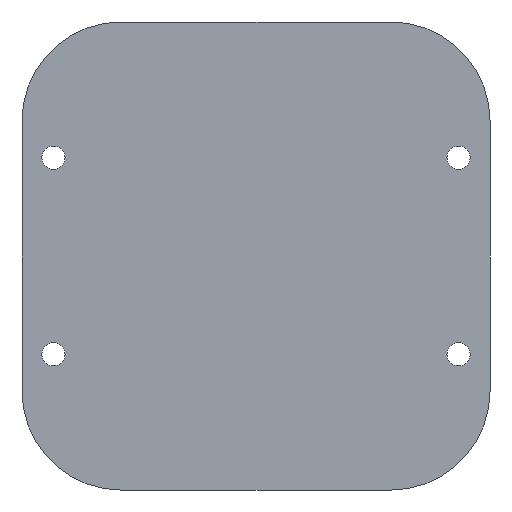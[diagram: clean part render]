
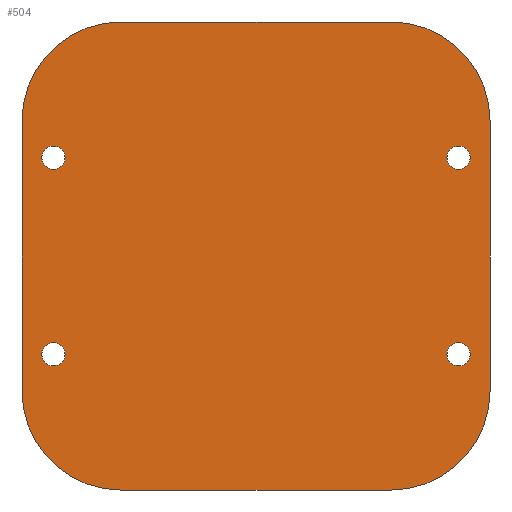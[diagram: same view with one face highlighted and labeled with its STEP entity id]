
A CAD part, front view. The second image highlights one B-rep face of the part: STEP entity #504.
In plain terms, the highlighted planar face has unit normal (0, -1, 0).
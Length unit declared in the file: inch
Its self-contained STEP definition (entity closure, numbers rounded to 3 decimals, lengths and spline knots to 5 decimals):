
#7 = EDGE_CURVE ( 'NONE', #327, #416, #460, .T. ) ;
#13 = DIRECTION ( 'NONE',  ( 0., 0., 1. ) ) ;
#24 = FACE_OUTER_BOUND ( 'NONE', #446, .T. ) ;
#34 = LINE ( 'NONE', #98, #306 ) ;
#39 = EDGE_CURVE ( 'NONE', #419, #177, #603, .T. ) ;
#46 = ORIENTED_EDGE ( 'NONE', *, *, #457, .F. ) ;
#57 = VERTEX_POINT ( 'NONE', #578 ) ;
#62 = ORIENTED_EDGE ( 'NONE', *, *, #485, .T. ) ;
#63 = VECTOR ( 'NONE', #216, 39.37008 ) ;
#70 = VERTEX_POINT ( 'NONE', #454 ) ;
#76 = ORIENTED_EDGE ( 'NONE', *, *, #78, .F. ) ;
#78 = EDGE_CURVE ( 'NONE', #354, #559, #34, .T. ) ;
#79 = DIRECTION ( 'NONE',  ( 0., 0., 1. ) ) ;
#90 = DIRECTION ( 'NONE',  ( 0., 1., 0. ) ) ;
#98 = CARTESIAN_POINT ( 'NONE',  ( 2.137, 0., 0. ) ) ;
#103 = ORIENTED_EDGE ( 'NONE', *, *, #7, .T. ) ;
#109 = DIRECTION ( 'NONE',  ( 0., 1., 0. ) ) ;
#115 = CARTESIAN_POINT ( 'NONE',  ( 2.137, 0., -10.11 ) ) ;
#132 = EDGE_LOOP ( 'NONE', ( #380, #278 ) ) ;
#135 = AXIS2_PLACEMENT_3D ( 'NONE', #393, #90, #443 ) ;
#136 = CARTESIAN_POINT ( 'NONE',  ( 2.137, 0., 0. ) ) ;
#148 = VERTEX_POINT ( 'NONE', #269 ) ;
#149 = VERTEX_POINT ( 'NONE', #602 ) ;
#151 = EDGE_CURVE ( 'NONE', #559, #478, #254, .T. ) ;
#160 = DIRECTION ( 'NONE',  ( 0., 1., 0. ) ) ;
#162 = FACE_BOUND ( 'NONE', #310, .T. ) ;
#165 = DIRECTION ( 'NONE',  ( 0., 1., 0. ) ) ;
#166 = AXIS2_PLACEMENT_3D ( 'NONE', #414, #109, #463 ) ;
#173 = ORIENTED_EDGE ( 'NONE', *, *, #612, .F. ) ;
#174 = DIRECTION ( 'NONE',  ( 0., 0., -1. ) ) ;
#176 = EDGE_CURVE ( 'NONE', #672, #70, #533, .T. ) ;
#177 = VERTEX_POINT ( 'NONE', #374 ) ;
#179 = EDGE_LOOP ( 'NONE', ( #329, #62 ) ) ;
#181 = CIRCLE ( 'NONE', #242, 0.25 ) ;
#187 = DIRECTION ( 'NONE',  ( 0., 1., 0. ) ) ;
#193 = ORIENTED_EDGE ( 'NONE', *, *, #39, .F. ) ;
#204 = CARTESIAN_POINT ( 'NONE',  ( 0., 0., -2.137 ) ) ;
#205 = VERTEX_POINT ( 'NONE', #204 ) ;
#209 = EDGE_CURVE ( 'NONE', #205, #354, #605, .T. ) ;
#210 = CARTESIAN_POINT ( 'NONE',  ( 9.43, 0., -7.43 ) ) ;
#216 = DIRECTION ( 'NONE',  ( -1., 0., 0. ) ) ;
#217 = DIRECTION ( 'NONE',  ( 0., 0., 1. ) ) ;
#223 = DIRECTION ( 'NONE',  ( 0., 1., 0. ) ) ;
#228 = AXIS2_PLACEMENT_3D ( 'NONE', #530, #223, #585 ) ;
#230 = LINE ( 'NONE', #377, #379 ) ;
#238 = CARTESIAN_POINT ( 'NONE',  ( 2.137, 0., -7.973 ) ) ;
#241 = CIRCLE ( 'NONE', #135, 0.25 ) ;
#242 = AXIS2_PLACEMENT_3D ( 'NONE', #473, #165, #525 ) ;
#252 = DIRECTION ( 'NONE',  ( 0., 1., 0. ) ) ;
#254 = CIRCLE ( 'NONE', #228, 2.137 ) ;
#259 = CIRCLE ( 'NONE', #630, 0.25 ) ;
#265 = CARTESIAN_POINT ( 'NONE',  ( 2.137, 0., -7.973 ) ) ;
#269 = CARTESIAN_POINT ( 'NONE',  ( 9.43, 0., -6.93 ) ) ;
#273 = CARTESIAN_POINT ( 'NONE',  ( 9.43, 0., -7.18 ) ) ;
#276 = EDGE_CURVE ( 'NONE', #505, #149, #565, .T. ) ;
#278 = ORIENTED_EDGE ( 'NONE', *, *, #544, .T. ) ;
#279 = EDGE_CURVE ( 'NONE', #149, #205, #289, .T. ) ;
#289 = LINE ( 'NONE', #501, #547 ) ;
#291 = CARTESIAN_POINT ( 'NONE',  ( 0.68, 0., -7.43 ) ) ;
#293 = DIRECTION ( 'NONE',  ( 0., 0., 1. ) ) ;
#296 = DIRECTION ( 'NONE',  ( 0., 1., 0. ) ) ;
#300 = FACE_BOUND ( 'NONE', #179, .T. ) ;
#306 = VECTOR ( 'NONE', #375, 39.37008 ) ;
#310 = EDGE_LOOP ( 'NONE', ( #655, #103 ) ) ;
#315 = VERTEX_POINT ( 'NONE', #613 ) ;
#316 = FACE_BOUND ( 'NONE', #132, .T. ) ;
#317 = PLANE ( 'NONE',  #453 ) ;
#319 = DIRECTION ( 'NONE',  ( 0., 1., 0. ) ) ;
#320 = DIRECTION ( 'NONE',  ( 0., 0., 1. ) ) ;
#327 = VERTEX_POINT ( 'NONE', #291 ) ;
#328 = DIRECTION ( 'NONE',  ( 0., 0., 1. ) ) ;
#329 = ORIENTED_EDGE ( 'NONE', *, *, #532, .T. ) ;
#345 = CARTESIAN_POINT ( 'NONE',  ( 7.973, 0., -7.973 ) ) ;
#354 = VERTEX_POINT ( 'NONE', #136 ) ;
#357 = EDGE_CURVE ( 'NONE', #416, #327, #241, .T. ) ;
#363 = CARTESIAN_POINT ( 'NONE',  ( 0.68, 0., -6.93 ) ) ;
#374 = CARTESIAN_POINT ( 'NONE',  ( 7.973, 0., -10.11 ) ) ;
#375 = DIRECTION ( 'NONE',  ( 1., 0., 0. ) ) ;
#376 = EDGE_CURVE ( 'NONE', #400, #148, #534, .T. ) ;
#377 = CARTESIAN_POINT ( 'NONE',  ( 10.11, 0., -2.137 ) ) ;
#379 = VECTOR ( 'NONE', #174, 39.37008 ) ;
#380 = ORIENTED_EDGE ( 'NONE', *, *, #176, .T. ) ;
#382 = AXIS2_PLACEMENT_3D ( 'NONE', #562, #252, #625 ) ;
#393 = CARTESIAN_POINT ( 'NONE',  ( 0.68, 0., -7.18 ) ) ;
#400 = VERTEX_POINT ( 'NONE', #210 ) ;
#414 = CARTESIAN_POINT ( 'NONE',  ( 9.43, 0., -7.18 ) ) ;
#415 = ORIENTED_EDGE ( 'NONE', *, *, #376, .T. ) ;
#416 = VERTEX_POINT ( 'NONE', #363 ) ;
#417 = CARTESIAN_POINT ( 'NONE',  ( 10.11, 0., -7.973 ) ) ;
#418 = AXIS2_PLACEMENT_3D ( 'NONE', #428, #160, #217 ) ;
#419 = VERTEX_POINT ( 'NONE', #417 ) ;
#420 = CIRCLE ( 'NONE', #418, 0.25 ) ;
#423 = ORIENTED_EDGE ( 'NONE', *, *, #209, .F. ) ;
#428 = CARTESIAN_POINT ( 'NONE',  ( 0.68, 0., -2.93 ) ) ;
#443 = DIRECTION ( 'NONE',  ( 0., 0., 1. ) ) ;
#446 = EDGE_LOOP ( 'NONE', ( #626, #46, #193, #173, #654, #76, #423, #465 ) ) ;
#450 = EDGE_LOOP ( 'NONE', ( #455, #415 ) ) ;
#453 = AXIS2_PLACEMENT_3D ( 'NONE', #265, #638, #320 ) ;
#454 = CARTESIAN_POINT ( 'NONE',  ( 9.43, 0., -3.18 ) ) ;
#455 = ORIENTED_EDGE ( 'NONE', *, *, #586, .T. ) ;
#456 = FACE_BOUND ( 'NONE', #450, .T. ) ;
#457 = EDGE_CURVE ( 'NONE', #177, #505, #594, .T. ) ;
#458 = AXIS2_PLACEMENT_3D ( 'NONE', #496, #187, #543 ) ;
#460 = CIRCLE ( 'NONE', #558, 0.25 ) ;
#463 = DIRECTION ( 'NONE',  ( 0., 0., 1. ) ) ;
#465 = ORIENTED_EDGE ( 'NONE', *, *, #279, .F. ) ;
#471 = CARTESIAN_POINT ( 'NONE',  ( 10.11, 0., -2.137 ) ) ;
#473 = CARTESIAN_POINT ( 'NONE',  ( 0.68, 0., -2.93 ) ) ;
#478 = VERTEX_POINT ( 'NONE', #471 ) ;
#485 = EDGE_CURVE ( 'NONE', #315, #57, #181, .T. ) ;
#495 = CARTESIAN_POINT ( 'NONE',  ( 9.43, 0., -2.68 ) ) ;
#496 = CARTESIAN_POINT ( 'NONE',  ( 2.137, 0., -2.137 ) ) ;
#501 = CARTESIAN_POINT ( 'NONE',  ( 0., 0., -2.137 ) ) ;
#504 = ADVANCED_FACE ( 'NONE', ( #316, #456, #300, #162, #24 ), #317, .F. ) ;
#505 = VERTEX_POINT ( 'NONE', #576 ) ;
#525 = DIRECTION ( 'NONE',  ( 0., 0., 1. ) ) ;
#529 = CARTESIAN_POINT ( 'NONE',  ( 7.973, 0., 0. ) ) ;
#530 = CARTESIAN_POINT ( 'NONE',  ( 7.973, 0., -2.137 ) ) ;
#532 = EDGE_CURVE ( 'NONE', #57, #315, #420, .T. ) ;
#533 = CIRCLE ( 'NONE', #382, 0.25 ) ;
#534 = CIRCLE ( 'NONE', #166, 0.25 ) ;
#543 = DIRECTION ( 'NONE',  ( 0., 0., -1. ) ) ;
#544 = EDGE_CURVE ( 'NONE', #70, #672, #560, .T. ) ;
#547 = VECTOR ( 'NONE', #549, 39.37008 ) ;
#549 = DIRECTION ( 'NONE',  ( 0., 0., 1. ) ) ;
#554 = AXIS2_PLACEMENT_3D ( 'NONE', #636, #319, #13 ) ;
#558 = AXIS2_PLACEMENT_3D ( 'NONE', #659, #591, #79 ) ;
#559 = VERTEX_POINT ( 'NONE', #529 ) ;
#560 = CIRCLE ( 'NONE', #554, 0.25 ) ;
#562 = CARTESIAN_POINT ( 'NONE',  ( 9.43, 0., -2.93 ) ) ;
#565 = CIRCLE ( 'NONE', #600, 2.137 ) ;
#576 = CARTESIAN_POINT ( 'NONE',  ( 2.137, 0., -10.11 ) ) ;
#578 = CARTESIAN_POINT ( 'NONE',  ( 0.68, 0., -2.68 ) ) ;
#585 = DIRECTION ( 'NONE',  ( 0., 0., 1. ) ) ;
#586 = EDGE_CURVE ( 'NONE', #148, #400, #259, .T. ) ;
#591 = DIRECTION ( 'NONE',  ( 0., 1., 0. ) ) ;
#594 = LINE ( 'NONE', #115, #63 ) ;
#597 = AXIS2_PLACEMENT_3D ( 'NONE', #345, #296, #667 ) ;
#600 = AXIS2_PLACEMENT_3D ( 'NONE', #238, #615, #293 ) ;
#602 = CARTESIAN_POINT ( 'NONE',  ( 0., 0., -7.973 ) ) ;
#603 = CIRCLE ( 'NONE', #597, 2.137 ) ;
#605 = CIRCLE ( 'NONE', #458, 2.137 ) ;
#612 = EDGE_CURVE ( 'NONE', #478, #419, #230, .T. ) ;
#613 = CARTESIAN_POINT ( 'NONE',  ( 0.68, 0., -3.18 ) ) ;
#615 = DIRECTION ( 'NONE',  ( 0., 1., 0. ) ) ;
#625 = DIRECTION ( 'NONE',  ( 0., 0., 1. ) ) ;
#626 = ORIENTED_EDGE ( 'NONE', *, *, #276, .F. ) ;
#630 = AXIS2_PLACEMENT_3D ( 'NONE', #273, #642, #328 ) ;
#636 = CARTESIAN_POINT ( 'NONE',  ( 9.43, 0., -2.93 ) ) ;
#638 = DIRECTION ( 'NONE',  ( 0., 1., 0. ) ) ;
#642 = DIRECTION ( 'NONE',  ( 0., 1., 0. ) ) ;
#654 = ORIENTED_EDGE ( 'NONE', *, *, #151, .F. ) ;
#655 = ORIENTED_EDGE ( 'NONE', *, *, #357, .T. ) ;
#659 = CARTESIAN_POINT ( 'NONE',  ( 0.68, 0., -7.18 ) ) ;
#667 = DIRECTION ( 'NONE',  ( 0., 0., 1. ) ) ;
#672 = VERTEX_POINT ( 'NONE', #495 ) ;
